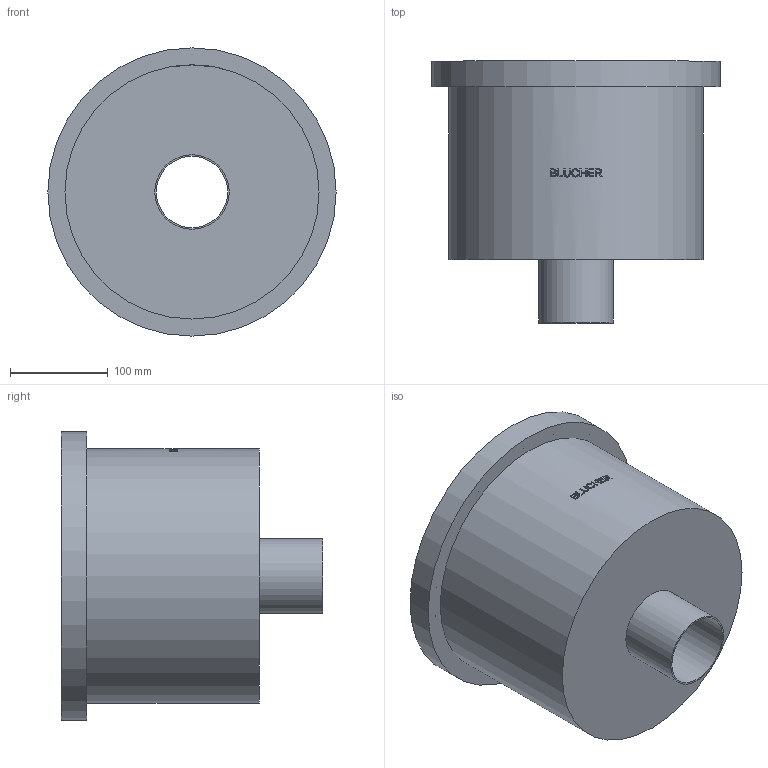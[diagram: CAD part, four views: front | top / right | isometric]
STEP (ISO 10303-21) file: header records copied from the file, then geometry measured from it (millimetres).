
FILE_DESCRIPTION((''),'2;1');
FILE_NAME('C:\Drawings\3D_CAD_Models\Blucher\BFD_Floor Drains_Complete_091119\BFD-400\WebsiteFiles\3D\STEP\BFD-443.stp','2009-11-30T08:21:22',('hofmansp'),(''),'Autodesk Inventor 2010','Autodesk Inventor 2010','');
FILE_SCHEMA(('AUTOMOTIVE_DESIGN { 1 0 10303 214 1 1 1 1 }'));
Length unit declared in the file: inch
Products named in the file (1): BFD-443
Bounding box: 295 x 268 x 295 mm (x, y, z)
Volume: 640753.5 mm3; surface area: 491253.7 mm2
Topology: 1 solids, 1 shells, 110 faces, 282 edges, 188 vertices
Faces by surface type: plane 60, bspline 34, cylinder 16
Full cylindrical faces by diameter (mm): 73 x1, 76.2 x1, 256.25 x1, 260 x1, 274.25 x1, 295 x1
Entity records: 14087 total; most frequent: CARTESIAN_POINT 11675, ORIENTED_EDGE 552, DIRECTION 364, EDGE_CURVE 276, VERTEX_POINT 188, EDGE_LOOP 132, AXIS2_PLACEMENT_3D 124, VECTOR 116
